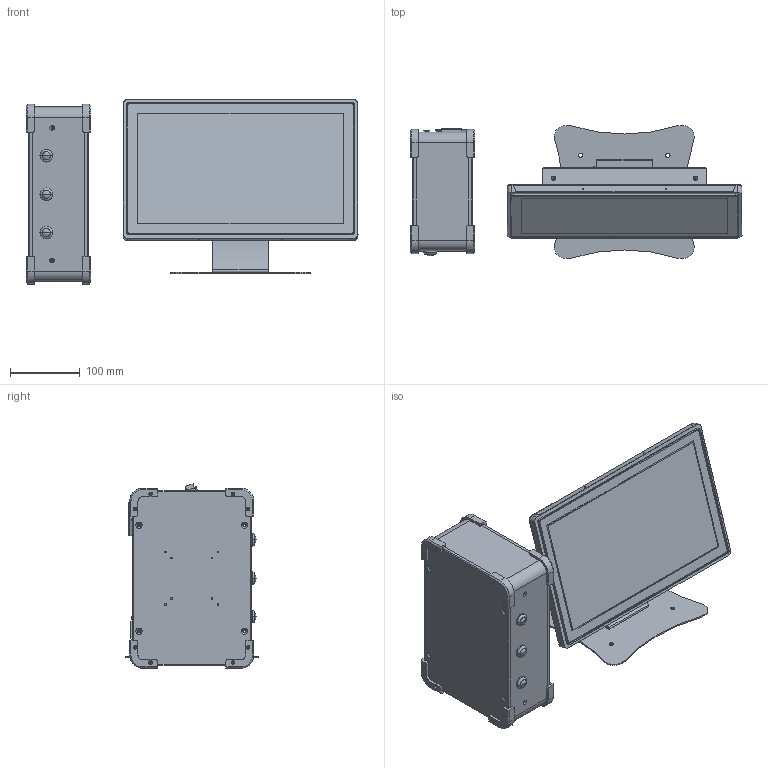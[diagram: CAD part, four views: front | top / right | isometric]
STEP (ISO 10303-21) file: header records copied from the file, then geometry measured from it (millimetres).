
FILE_DESCRIPTION (( 'STEP AP214' ), '1' );
FILE_NAME ('萇埭&諷秶ん.STEP', '2024-12-03T04:46:56', ( '' ), ( '' ), 'SwSTEP 2.0', 'SolidWorks 2023', '' );
FILE_SCHEMA (( 'AUTOMOTIVE_DESIGN' ));
Products named in the file (1): 电源&控制器
Bounding box: 475.44 x 190 x 264.31 mm (x, y, z)
Surface area: 716858.8 mm2 (no closed solid volume)
Topology: 0 solids, 224 shells, 1640 faces, 8217 edges, 6684 vertices
Faces by surface type: cylinder 779, plane 765, cone 64, torus 19, sphere 8, bspline 5
Entity records: 84671 total; most frequent: CARTESIAN_POINT 17944, DIRECTION 14192, ORIENTED_EDGE 11293, EDGE_CURVE 8213, VERTEX_POINT 6683, AXIS2_PLACEMENT_3D 4735, LINE 4722, VECTOR 4722
